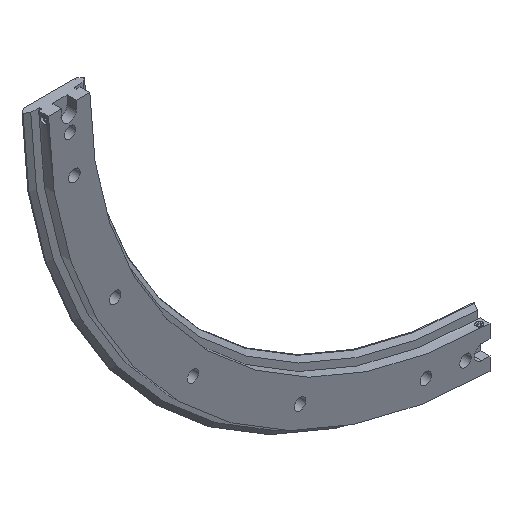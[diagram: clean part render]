
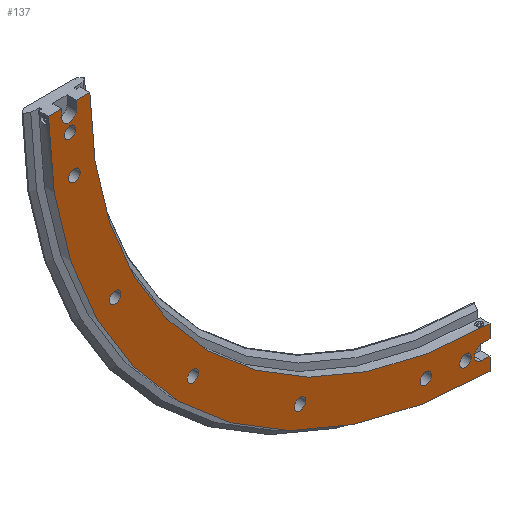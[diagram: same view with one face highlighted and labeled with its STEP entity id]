
A CAD part, isometric view. The second image highlights one B-rep face of the part: STEP entity #137.
In plain terms, the highlighted planar face has unit normal (0, -1, 0).
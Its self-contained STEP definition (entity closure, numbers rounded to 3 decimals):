
#137 = ADVANCED_FACE( '', ( #306, #307, #308, #309, #310, #311, #312, #313 ), #314, .T. );
#306 = FACE_BOUND( '', #519, .T. );
#307 = FACE_BOUND( '', #520, .T. );
#308 = FACE_BOUND( '', #521, .T. );
#309 = FACE_BOUND( '', #522, .T. );
#310 = FACE_BOUND( '', #523, .T. );
#311 = FACE_BOUND( '', #524, .T. );
#312 = FACE_BOUND( '', #525, .T. );
#313 = FACE_OUTER_BOUND( '', #526, .T. );
#314 = PLANE( '', #527 );
#519 = EDGE_LOOP( '', ( #1054 ) );
#520 = EDGE_LOOP( '', ( #1055 ) );
#521 = EDGE_LOOP( '', ( #1056 ) );
#522 = EDGE_LOOP( '', ( #1057 ) );
#523 = EDGE_LOOP( '', ( #1058 ) );
#524 = EDGE_LOOP( '', ( #1059 ) );
#525 = EDGE_LOOP( '', ( #1060 ) );
#526 = EDGE_LOOP( '', ( #1061, #1062, #1063, #1064, #1065, #1066, #1067, #1068, #1069, #1070, #1071, #1072 ) );
#527 = AXIS2_PLACEMENT_3D( '', #1073, #1074, #1075 );
#1054 = ORIENTED_EDGE( '', *, *, #1358, .F. );
#1055 = ORIENTED_EDGE( '', *, *, #1359, .F. );
#1056 = ORIENTED_EDGE( '', *, *, #1360, .F. );
#1057 = ORIENTED_EDGE( '', *, *, #1361, .F. );
#1058 = ORIENTED_EDGE( '', *, *, #1362, .F. );
#1059 = ORIENTED_EDGE( '', *, *, #1256, .F. );
#1060 = ORIENTED_EDGE( '', *, *, #1260, .F. );
#1061 = ORIENTED_EDGE( '', *, *, #1241, .T. );
#1062 = ORIENTED_EDGE( '', *, *, #1246, .T. );
#1063 = ORIENTED_EDGE( '', *, *, #1269, .T. );
#1064 = ORIENTED_EDGE( '', *, *, #1265, .T. );
#1065 = ORIENTED_EDGE( '', *, *, #1196, .T. );
#1066 = ORIENTED_EDGE( '', *, *, #1255, .T. );
#1067 = ORIENTED_EDGE( '', *, *, #1253, .T. );
#1068 = ORIENTED_EDGE( '', *, *, #1251, .T. );
#1069 = ORIENTED_EDGE( '', *, *, #1212, .T. );
#1070 = ORIENTED_EDGE( '', *, *, #1342, .F. );
#1071 = ORIENTED_EDGE( '', *, *, #1270, .T. );
#1072 = ORIENTED_EDGE( '', *, *, #1244, .T. );
#1073 = CARTESIAN_POINT( '', ( -491.25, 0., 0. ) );
#1074 = DIRECTION( '', ( 0., -1., 0. ) );
#1075 = DIRECTION( '', ( 0., 0., -1. ) );
#1196 = EDGE_CURVE( '', #1379, #1377, #1380, .T. );
#1212 = EDGE_CURVE( '', #1411, #1409, #1412, .T. );
#1241 = EDGE_CURVE( '', #1461, #1462, #1463, .T. );
#1244 = EDGE_CURVE( '', #1466, #1461, #1467, .T. );
#1246 = EDGE_CURVE( '', #1462, #1469, #1470, .T. );
#1251 = EDGE_CURVE( '', #1477, #1411, #1478, .T. );
#1253 = EDGE_CURVE( '', #1480, #1477, #1481, .T. );
#1255 = EDGE_CURVE( '', #1377, #1480, #1483, .T. );
#1256 = EDGE_CURVE( '', #1484, #1484, #1485, .T. );
#1260 = EDGE_CURVE( '', #1492, #1492, #1493, .T. );
#1265 = EDGE_CURVE( '', #1502, #1379, #1503, .T. );
#1269 = EDGE_CURVE( '', #1469, #1502, #1509, .T. );
#1270 = EDGE_CURVE( '', #1510, #1466, #1511, .T. );
#1342 = EDGE_CURVE( '', #1510, #1409, #1634, .T. );
#1358 = EDGE_CURVE( '', #1655, #1655, #1656, .T. );
#1359 = EDGE_CURVE( '', #1657, #1657, #1658, .T. );
#1360 = EDGE_CURVE( '', #1659, #1659, #1660, .T. );
#1361 = EDGE_CURVE( '', #1661, #1661, #1662, .T. );
#1362 = EDGE_CURVE( '', #1663, #1663, #1664, .T. );
#1377 = VERTEX_POINT( '', #1690 );
#1379 = VERTEX_POINT( '', #1693 );
#1380 = LINE( '', #1694, #1695 );
#1409 = VERTEX_POINT( '', #1762 );
#1411 = VERTEX_POINT( '', #1765 );
#1412 = LINE( '', #1766, #1767 );
#1461 = VERTEX_POINT( '', #1906 );
#1462 = VERTEX_POINT( '', #1907 );
#1463 = CIRCLE( '', #1908, 9. );
#1466 = VERTEX_POINT( '', #1913 );
#1467 = LINE( '', #1914, #1915 );
#1469 = VERTEX_POINT( '', #1918 );
#1470 = LINE( '', #1919, #1920 );
#1477 = VERTEX_POINT( '', #1930 );
#1478 = LINE( '', #1931, #1932 );
#1480 = VERTEX_POINT( '', #1935 );
#1481 = CIRCLE( '', #1936, 9. );
#1483 = LINE( '', #1939, #1940 );
#1484 = VERTEX_POINT( '', #1941 );
#1485 = CIRCLE( '', #1942, 7. );
#1492 = VERTEX_POINT( '', #1949 );
#1493 = CIRCLE( '', #1950, 7. );
#1502 = VERTEX_POINT( '', #2024 );
#1503 = CIRCLE( '', #2025, 541.75 );
#1509 = LINE( '', #2097, #2098 );
#1510 = VERTEX_POINT( '', #2099 );
#1511 = LINE( '', #2100, #2101 );
#1634 = CIRCLE( '', #2377, 491.25 );
#1655 = VERTEX_POINT( '', #2398 );
#1656 = CIRCLE( '', #2399, 7. );
#1657 = VERTEX_POINT( '', #2400 );
#1658 = CIRCLE( '', #2401, 7. );
#1659 = VERTEX_POINT( '', #2402 );
#1660 = CIRCLE( '', #2403, 7. );
#1661 = VERTEX_POINT( '', #2404 );
#1662 = CIRCLE( '', #2405, 7. );
#1663 = VERTEX_POINT( '', #2406 );
#1664 = CIRCLE( '', #2407, 7. );
#1690 = CARTESIAN_POINT( '', ( -2.5, 0., -525.5 ) );
#1693 = CARTESIAN_POINT( '', ( -2.5, 0., -541.744 ) );
#1694 = CARTESIAN_POINT( '', ( -2.5, 0., -554.87 ) );
#1695 = VECTOR( '', #2432, 1000. );
#1762 = CARTESIAN_POINT( '', ( -2.5, 0., -491.244 ) );
#1765 = CARTESIAN_POINT( '', ( -2.5, 0., -507.5 ) );
#1766 = CARTESIAN_POINT( '', ( -2.5, 0., -554.87 ) );
#1767 = VECTOR( '', #2442, 1000. );
#1906 = CARTESIAN_POINT( '', ( -507.5, 0., -12.5 ) );
#1907 = CARTESIAN_POINT( '', ( -525.5, 0., -12.5 ) );
#1908 = AXIS2_PLACEMENT_3D( '', #2477, #2478, #2479 );
#1913 = CARTESIAN_POINT( '', ( -507.5, 0., -2.5 ) );
#1914 = CARTESIAN_POINT( '', ( -507.5, 0., 0. ) );
#1915 = VECTOR( '', #2482, 1000. );
#1918 = CARTESIAN_POINT( '', ( -525.5, 0., -2.5 ) );
#1919 = CARTESIAN_POINT( '', ( -525.5, 0., -12.5 ) );
#1920 = VECTOR( '', #2484, 1000. );
#1930 = CARTESIAN_POINT( '', ( -12.5, 0., -507.5 ) );
#1931 = CARTESIAN_POINT( '', ( -12.5, 0., -507.5 ) );
#1932 = VECTOR( '', #2491, 1000. );
#1935 = CARTESIAN_POINT( '', ( -12.5, 0., -525.5 ) );
#1936 = AXIS2_PLACEMENT_3D( '', #2493, #2494, #2495 );
#1939 = CARTESIAN_POINT( '', ( 0., 0., -525.5 ) );
#1940 = VECTOR( '', #2497, 1000. );
#1941 = CARTESIAN_POINT( '', ( -510.141, 0., -87.798 ) );
#1942 = AXIS2_PLACEMENT_3D( '', #2498, #2499, #2500 );
#1949 = CARTESIAN_POINT( '', ( -80.798, 0., -517.141 ) );
#1950 = AXIS2_PLACEMENT_3D( '', #2510, #2511, #2512 );
#2024 = CARTESIAN_POINT( '', ( -541.744, 0., -2.5 ) );
#2025 = AXIS2_PLACEMENT_3D( '', #2522, #2523, #2524 );
#2097 = CARTESIAN_POINT( '', ( -2.5, 0., -2.5 ) );
#2098 = VECTOR( '', #2529, 1000. );
#2099 = CARTESIAN_POINT( '', ( -491.244, 0., -2.5 ) );
#2100 = CARTESIAN_POINT( '', ( -2.5, 0., -2.5 ) );
#2101 = VECTOR( '', #2530, 1000. );
#2377 = AXIS2_PLACEMENT_3D( '', #2604, #2605, #2606 );
#2398 = CARTESIAN_POINT( '', ( -515.476, 0., -39.503 ) );
#2399 = AXIS2_PLACEMENT_3D( '', #2652, #2653, #2654 );
#2400 = CARTESIAN_POINT( '', ( -32.503, 0., -522.476 ) );
#2401 = AXIS2_PLACEMENT_3D( '', #2655, #2656, #2657 );
#2402 = CARTESIAN_POINT( '', ( -460.205, 0., -241.486 ) );
#2403 = AXIS2_PLACEMENT_3D( '', #2658, #2659, #2660 );
#2404 = CARTESIAN_POINT( '', ( -365.221, 0., -372.221 ) );
#2405 = AXIS2_PLACEMENT_3D( '', #2661, #2662, #2663 );
#2406 = CARTESIAN_POINT( '', ( -234.486, 0., -467.205 ) );
#2407 = AXIS2_PLACEMENT_3D( '', #2664, #2665, #2666 );
#2432 = DIRECTION( '', ( 0., 0., 1. ) );
#2442 = DIRECTION( '', ( 0., 0., 1. ) );
#2477 = CARTESIAN_POINT( '', ( -516.5, 0., -12.5 ) );
#2478 = DIRECTION( '', ( 0., 1., 0. ) );
#2479 = DIRECTION( '', ( 1., 0., 0. ) );
#2482 = DIRECTION( '', ( 0., 0., -1. ) );
#2484 = DIRECTION( '', ( 0., 0., 1. ) );
#2491 = DIRECTION( '', ( 1., 0., 0. ) );
#2493 = CARTESIAN_POINT( '', ( -12.5, 0., -516.5 ) );
#2494 = DIRECTION( '', ( 0., 1., 0. ) );
#2495 = DIRECTION( '', ( 1., 0., 0. ) );
#2497 = DIRECTION( '', ( -1., 0., 0. ) );
#2498 = CARTESIAN_POINT( '', ( -510.141, 0., -80.798 ) );
#2499 = DIRECTION( '', ( 0., -1., 0. ) );
#2500 = DIRECTION( '', ( 0., 0., -1. ) );
#2510 = CARTESIAN_POINT( '', ( -80.798, 0., -510.141 ) );
#2511 = DIRECTION( '', ( 0., -1., 0. ) );
#2512 = DIRECTION( '', ( 0., 0., -1. ) );
#2522 = CARTESIAN_POINT( '', ( 0., 0., 0. ) );
#2523 = DIRECTION( '', ( 0., -1., 0. ) );
#2524 = DIRECTION( '', ( 0., 0., -1. ) );
#2529 = DIRECTION( '', ( -1., 0., 0. ) );
#2530 = DIRECTION( '', ( -1., 0., 0. ) );
#2604 = CARTESIAN_POINT( '', ( 0., 0., 0. ) );
#2605 = DIRECTION( '', ( 0., -1., 0. ) );
#2606 = DIRECTION( '', ( 0., 0., -1. ) );
#2652 = CARTESIAN_POINT( '', ( -515.476, 0., -32.503 ) );
#2653 = DIRECTION( '', ( 0., -1., 0. ) );
#2654 = DIRECTION( '', ( 0., 0., -1. ) );
#2655 = CARTESIAN_POINT( '', ( -32.503, 0., -515.476 ) );
#2656 = DIRECTION( '', ( 0., -1., 0. ) );
#2657 = DIRECTION( '', ( 0., 0., -1. ) );
#2658 = CARTESIAN_POINT( '', ( -460.205, 0., -234.486 ) );
#2659 = DIRECTION( '', ( 0., -1., 0. ) );
#2660 = DIRECTION( '', ( 0., 0., -1. ) );
#2661 = CARTESIAN_POINT( '', ( -365.221, 0., -365.221 ) );
#2662 = DIRECTION( '', ( 0., -1., 0. ) );
#2663 = DIRECTION( '', ( 0., 0., -1. ) );
#2664 = CARTESIAN_POINT( '', ( -234.486, 0., -460.205 ) );
#2665 = DIRECTION( '', ( 0., -1., 0. ) );
#2666 = DIRECTION( '', ( 0., 0., -1. ) );
